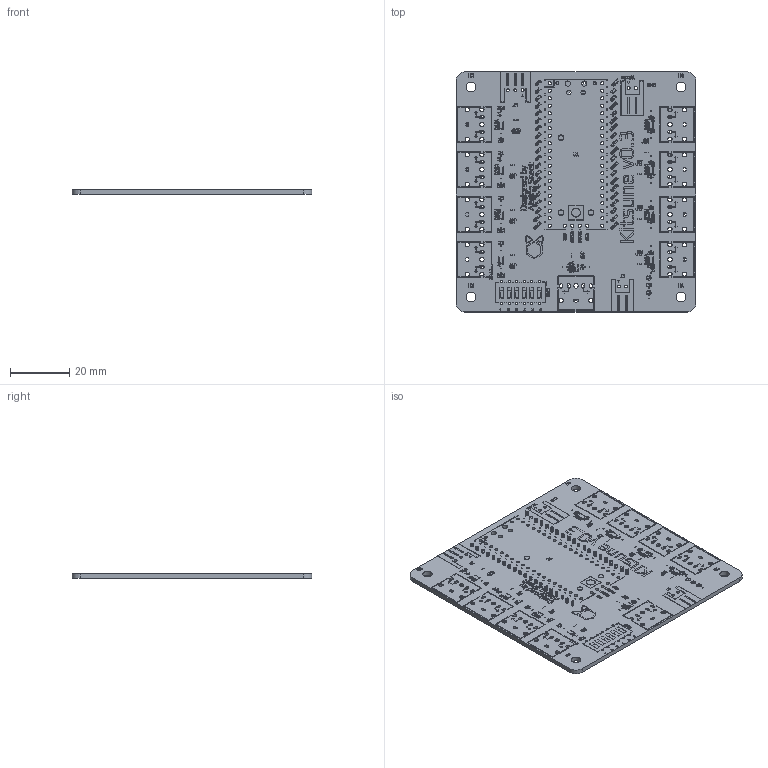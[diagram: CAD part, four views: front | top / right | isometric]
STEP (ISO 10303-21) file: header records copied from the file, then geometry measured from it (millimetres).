
FILE_DESCRIPTION(('KiCad electronic assembly'),'2;1');
FILE_NAME('Kitsune PCB v0.3.step','2025-05-18T13:12:01',('Pcbnew'),( 'Kicad'),'Open CASCADE STEP processor 7.8','KiCad to STEP converter' ,'Unknown');
FILE_SCHEMA(('AUTOMOTIVE_DESIGN { 1 0 10303 214 1 1 1 1 }'));
Length unit declared in the file: millimetre
Products named in the file (3): Kitsune PCB v0.3 1; Kitsune PCB v0.3_silkscreen; Kitsune PCB v0.3_PCB
Assembly tree (2 placements, depth 2):
  Kitsune PCB v0.3 1
    Kitsune PCB v0.3_silkscreen
    Kitsune PCB v0.3_PCB
Bounding box: 81.28 x 81.28 x 1.66 mm (x, y, z)
Volume: 9672.2 mm3; surface area: 15237.1 mm2
Topology: 1 solids, 686 shells, 1810 faces, 19148 edges, 18025 vertices
Faces by surface type: plane 1645, cylinder 165
Full cylindrical faces by diameter (mm): 0.8 x12, 0.95 x3, 1 x4, 1.02 x44, 1.5 x2, 1.8 x2, 3.2 x4
Entity records: 342534 total; most frequent: CARTESIAN_POINT 77055, DIRECTION 45690, LINE 34723, VECTOR 34723, ORIENTED_EDGE 22517, PCURVE 22517, DEFINITIONAL_REPRESENTATION 22517, EDGE_CURVE 19148
